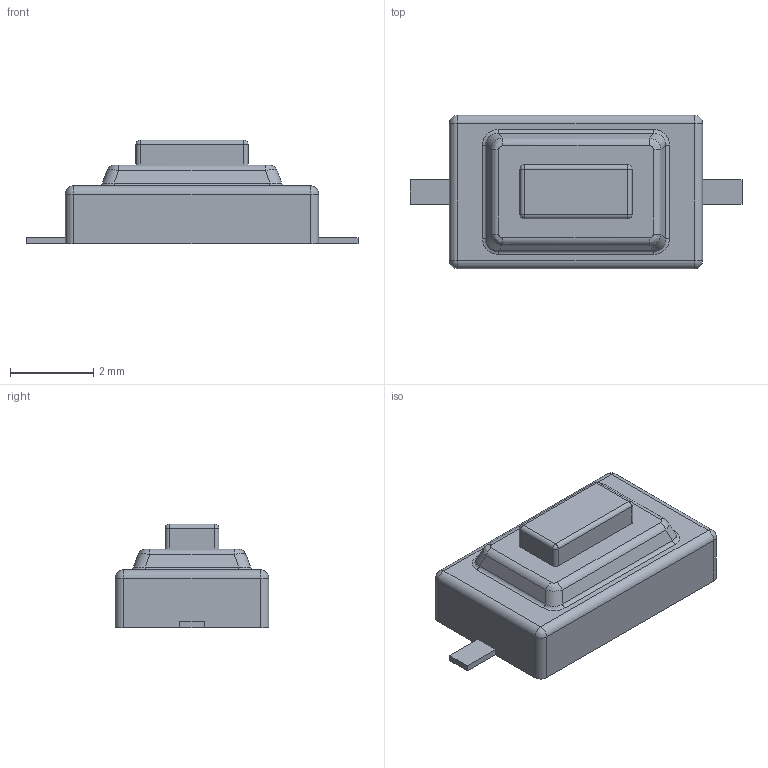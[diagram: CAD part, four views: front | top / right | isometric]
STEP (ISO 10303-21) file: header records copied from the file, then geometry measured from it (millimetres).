
FILE_DESCRIPTION(('FreeCAD Model'),'2;1');
FILE_NAME('Open CASCADE Shape Model','2025-02-27T22:15:06',( 'Krisjanis Rijnieks'),(''),'Open CASCADE STEP processor 7.7', 'FreeCAD','Unknown');
FILE_SCHEMA(('AUTOMOTIVE_DESIGN { 1 0 10303 214 1 1 1 1 }'));
Length unit declared in the file: millimetre
Products named in the file (5): PTS636SM25FSMTR; LeadA; LeadB; Cover; Button
Assembly tree (4 placements, depth 2):
  PTS636SM25FSMTR
    LeadA
    LeadB
    Cover
    Button
Bounding box: 8 x 3.7 x 2.5 mm (x, y, z)
Volume: 39.3 mm3; surface area: 91.2 mm2
Topology: 4 solids, 4 shells, 73 faces, 160 edges, 88 vertices
Faces by surface type: plane 29, cylinder 28, bspline 8, sphere 8
Entity records: 2417 total; most frequent: CARTESIAN_POINT 826, DIRECTION 312, ORIENTED_EDGE 304, EDGE_CURVE 152, AXIS2_PLACEMENT_3D 112, VERTEX_POINT 88, LINE 88, VECTOR 88
